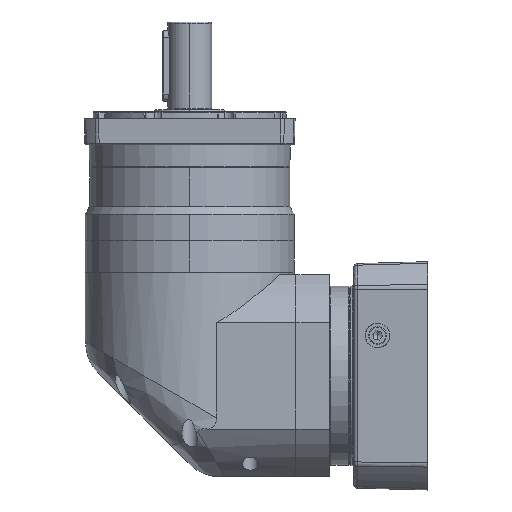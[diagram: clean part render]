
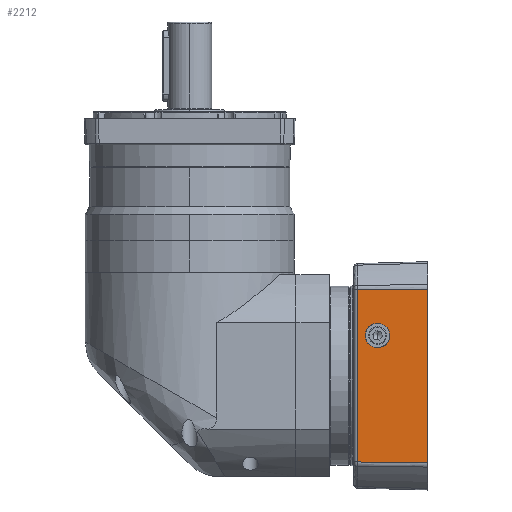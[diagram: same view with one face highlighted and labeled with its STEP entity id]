
A CAD part, front view. The second image highlights one B-rep face of the part: STEP entity #2212.
In plain terms, the highlighted planar face has unit normal (-0.026, -1, 0) as drawn and (-0.026, 0, -1) by its records, which use the part's own axes.
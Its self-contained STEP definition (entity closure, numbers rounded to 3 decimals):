
#1697 = CARTESIAN_POINT ( 'NONE',  ( -46806.406, -49.037, -63.951 ) ) ;
#2212 = ADVANCED_FACE ( 'NONE', ( #64102, #66565 ), #8163, .F. ) ;
#3064 = ORIENTED_EDGE ( 'NONE', *, *, #64664, .F. ) ;
#6606 = DIRECTION ( 'NONE',  ( 1., 0., -0.026 ) ) ;
#6701 = DIRECTION ( 'NONE',  ( 0.026, 0., 1. ) ) ;
#6801 = CARTESIAN_POINT ( 'NONE',  ( -46766.354, -50.806, -65. ) ) ;
#8163 = PLANE ( 'NONE',  #95057 ) ;
#8922 = EDGE_LOOP ( 'NONE', ( #3064, #74939 ) ) ;
#9077 = VERTEX_POINT ( 'NONE', #41525 ) ;
#10157 = CARTESIAN_POINT ( 'NONE',  ( -46787.854, -23., -64.437 ) ) ;
#11235 = ORIENTED_EDGE ( 'NONE', *, *, #35751, .F. ) ;
#11530 = CARTESIAN_POINT ( 'NONE',  ( -46787.854, -9., -64.437 ) ) ;
#16847 = CARTESIAN_POINT ( 'NONE',  ( -46806.406, -50.806, -63.951 ) ) ;
#18000 = CARTESIAN_POINT ( 'NONE',  ( -46766.354, 49.409, -65. ) ) ;
#18755 = CARTESIAN_POINT ( 'NONE',  ( -46801.854, -37., -64.07 ) ) ;
#20879 = ORIENTED_EDGE ( 'NONE', *, *, #100006, .F. ) ;
#25101 = VERTEX_POINT ( 'NONE', #67437 ) ;
#25227 = CARTESIAN_POINT ( 'NONE',  ( -46787.854, -37., -64.437 ) ) ;
#26250 = CARTESIAN_POINT ( 'NONE',  ( -46766.354, -50.806, -65. ) ) ;
#26587 = CARTESIAN_POINT ( 'NONE',  ( -46787.854, -23., -64.437 ) ) ;
#29388 = EDGE_CURVE ( 'NONE', #25101, #42218, #68904, .T. ) ;
#29537 = LINE ( 'NONE', #18000, #70987 ) ;
#30189 = EDGE_CURVE ( 'NONE', #39601, #48176, #82003, .T. ) ;
#31207 = EDGE_LOOP ( 'NONE', ( #83169, #11235, #68114, #20879 ) ) ;
#32288 = LINE ( 'NONE', #90427, #50602 ) ;
#34436 = CARTESIAN_POINT ( 'NONE',  ( -46801.854, -23., -64.07 ) ) ;
#35751 = EDGE_CURVE ( 'NONE', #9077, #25101, #29537, .T. ) ;
#39601 = VERTEX_POINT ( 'NONE', #10157 ) ;
#41525 = CARTESIAN_POINT ( 'NONE',  ( -46766.354, 49.409, -65. ) ) ;
#41775 = LINE ( 'NONE', #26250, #80717 ) ;
#42218 = VERTEX_POINT ( 'NONE', #1697 ) ;
#42252 = CARTESIAN_POINT ( 'NONE',  ( -46766.354, -49.409, -65. ) ) ;
#42562 = CARTESIAN_POINT ( 'NONE',  ( -46801.854, -23., -64.07 ) ) ;
#43719 = VERTEX_POINT ( 'NONE', #42252 ) ;
#43878 = DIRECTION ( 'NONE',  ( 1., -0.009, -0.026 ) ) ;
#48176 = VERTEX_POINT ( 'NONE', #89335 ) ;
#50602 = VECTOR ( 'NONE', #43878, 1000. ) ;
#51064 = EDGE_CURVE ( 'NONE', #43719, #9077, #41775, .T. ) ;
#56477 = DIRECTION ( 'NONE',  ( -1., -0.009, 0.026 ) ) ;
#63471 = DIRECTION ( 'NONE',  ( 0., -1., 0. ) ) ;
#64102 = FACE_BOUND ( 'NONE', #8922, .T. ) ;
#64664 = EDGE_CURVE ( 'NONE', #48176, #39601, #89862, .T. ) ;
#66033 = CARTESIAN_POINT ( 'NONE',  ( -46787.854, -23., -64.437 ) ) ;
#66565 = FACE_OUTER_BOUND ( 'NONE', #31207, .T. ) ;
#67437 = CARTESIAN_POINT ( 'NONE',  ( -46806.406, 49.037, -63.951 ) ) ;
#68114 = ORIENTED_EDGE ( 'NONE', *, *, #51064, .F. ) ;
#68904 = LINE ( 'NONE', #16847, #89586 ) ;
#70987 = VECTOR ( 'NONE', #56477, 1000. ) ;
#72852 = DIRECTION ( 'NONE',  ( 0., 1., 0. ) ) ;
#74939 = ORIENTED_EDGE ( 'NONE', *, *, #30189, .F. ) ;
#80717 = VECTOR ( 'NONE', #72852, 1000. ) ;
#82003 =( BOUNDED_CURVE ( )  B_SPLINE_CURVE ( 3, ( #26587, #25227, #18755, #34436 ),
 .UNSPECIFIED., .F., .F. ) 
 B_SPLINE_CURVE_WITH_KNOTS ( ( 4, 4 ),
 ( 0., 3.142 ),
 .UNSPECIFIED. ) 
 CURVE ( )  GEOMETRIC_REPRESENTATION_ITEM ( )  RATIONAL_B_SPLINE_CURVE ( ( 1., 0.333, 0.333, 1. ) ) 
 REPRESENTATION_ITEM ( '' )  );
#83169 = ORIENTED_EDGE ( 'NONE', *, *, #29388, .F. ) ;
#89141 = CARTESIAN_POINT ( 'NONE',  ( -46801.854, -9., -64.07 ) ) ;
#89335 = CARTESIAN_POINT ( 'NONE',  ( -46801.854, -23., -64.07 ) ) ;
#89586 = VECTOR ( 'NONE', #63471, 1000. ) ;
#89862 =( BOUNDED_CURVE ( )  B_SPLINE_CURVE ( 3, ( #42562, #89141, #11530, #66033 ),
 .UNSPECIFIED., .F., .T. ) 
 B_SPLINE_CURVE_WITH_KNOTS ( ( 4, 4 ),
 ( 3.142, 6.283 ),
 .UNSPECIFIED. ) 
 CURVE ( )  GEOMETRIC_REPRESENTATION_ITEM ( )  RATIONAL_B_SPLINE_CURVE ( ( 1., 0.333, 0.333, 1. ) ) 
 REPRESENTATION_ITEM ( '' )  );
#90427 = CARTESIAN_POINT ( 'NONE',  ( -46806.406, -49.037, -63.951 ) ) ;
#95057 = AXIS2_PLACEMENT_3D ( 'NONE', #6801, #6701, #6606 ) ;
#100006 = EDGE_CURVE ( 'NONE', #42218, #43719, #32288, .T. ) ;
